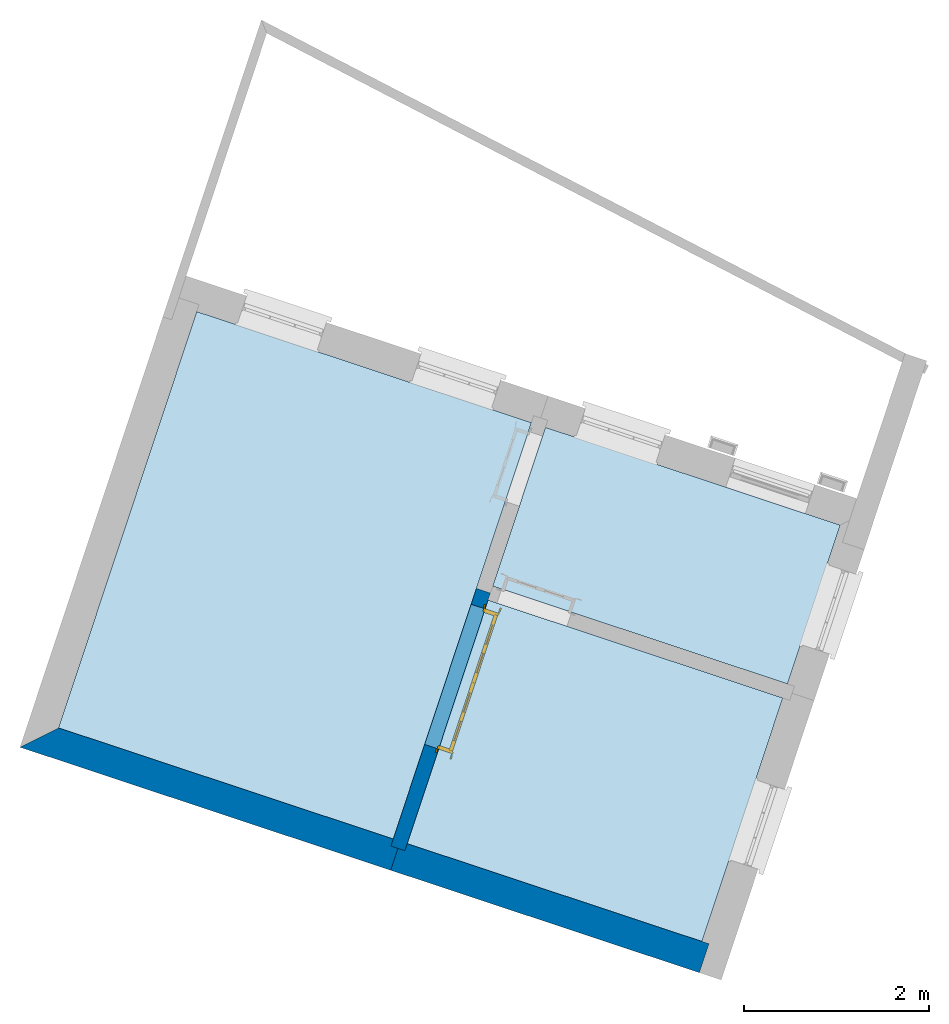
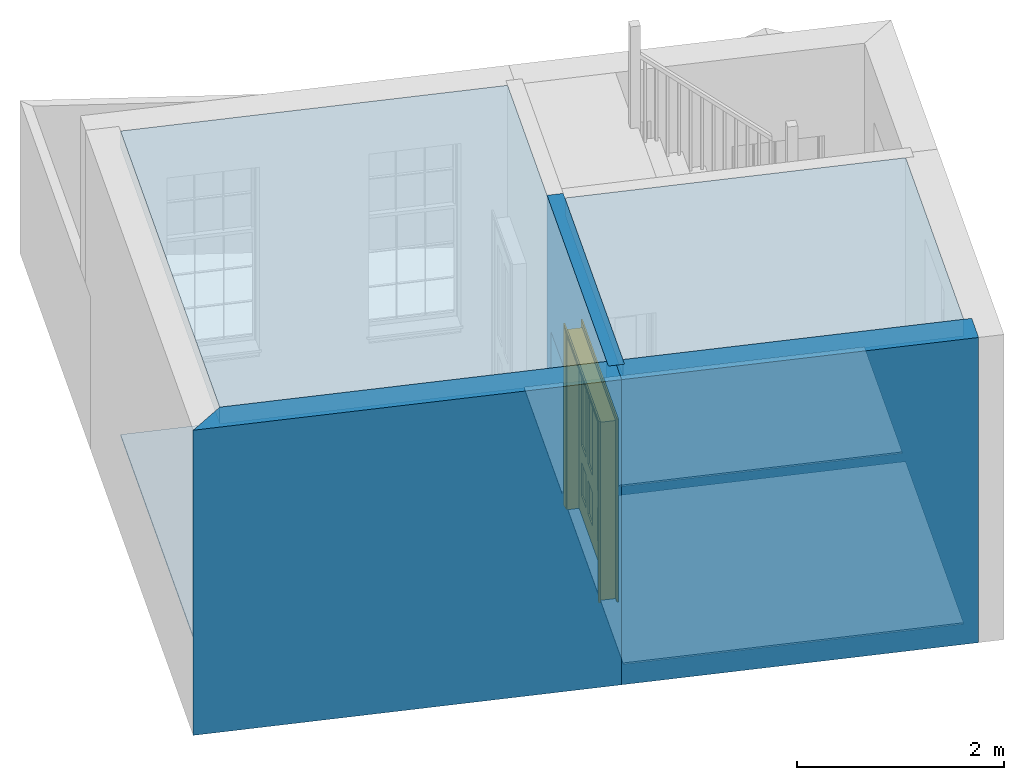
# One storey, part 1 of 6: 5 slabs, 3 walls, 1 door, 1 opening.
"""IFC4 building model written with IfcOpenShell, lengths in metres."""

from ifc_helpers import new_model, si_unit, frame, origin, origin_with_axes, place, context, subcontext, project, spatial, polyline, outline, extrude, faceted_brep, source, transform, mapped, material, layer, layer_set, layer_usage, type_object, type_shapes, element, fill, save


model = new_model("IFC4")

# Units and contexts
model_context = context("Model", 3, world=origin_with_axes())
body_context = subcontext(model_context, "Body", "Model", "MODEL_VIEW")
ifc_project = project(units=[si_unit("PLANEANGLEUNIT", "RADIAN"), si_unit("MASSUNIT", "GRAM", prefix="KILO"), si_unit("FORCEUNIT", "NEWTON", prefix="KILO"), si_unit("LENGTHUNIT", "METRE"), si_unit("AREAUNIT", "SQUARE_METRE"), si_unit("VOLUMEUNIT", "CUBIC_METRE")], contexts=[model_context, model_context])

# Sites, building, storey
site_1_placement = place(None, origin_with_axes())
site_1 = spatial("IfcSite", under=ifc_project, at=site_1_placement, Name="Tamar")
site_2_placement = place(site_1_placement, origin_with_axes())
site_2 = spatial("IfcSite", under=site_1, at=site_2_placement, Name="Site plot-17", CompositionType="ELEMENT")
building_placement = place(None, origin_with_axes())
building = spatial("IfcBuilding", under=site_2, at=building_placement, Name="Building plot-17", CompositionType="ELEMENT")
storey_placement = place(None, frame((0.0, 0.0, 26.8), z_axis=(0.0, 0.0, 1.0), x_axis=(1.0, 0.0, 0.0)))
storey = spatial("IfcBuildingStorey", under=building, at=storey_placement, Name="plot-17 0", CompositionType="ELEMENT", Elevation=26.8)

# Slabs
slab_1_placement = place(storey_placement, frame((267.388920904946, 307.511423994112, 3.4)))
element("IfcSlab", 1, at=slab_1_placement, inside=storey, Name="My Slab", ObjectType="Slab", PredefinedType="FLOOR", context=body_context, shape_type="SweptSolid", body=[
    extrude(outline(polyline([(0.0, 0.0), (-1.49607704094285, -4.50704970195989), (2.12764428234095, -5.7099133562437), (3.62372132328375, -1.20286365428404), (0.0, 0.0)])), origin_with_axes(), (0.0, 0.0, 1.0), 0.2),
])
slab_2_placement = place(storey_placement, frame((267.388920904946, 307.511423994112, 0.0)))
element("IfcSlab", 2, at=slab_2_placement, inside=storey, Name="My Slab", ObjectType="Slab", PredefinedType="FLOOR", context=body_context, shape_type="SweptSolid", body=[
    extrude(outline(polyline([(0.0, 0.0), (-1.49607704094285, -4.50704970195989), (2.12764428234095, -5.7099133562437), (3.62372132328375, -1.20286365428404), (0.0, 0.0)])), origin_with_axes(), (0.0, 0.0, 1.0), 0.02),
])
slab_3_placement = place(storey_placement, frame((271.164494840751, 306.258154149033, 0.0)))
element("IfcSlab", 3, at=slab_3_placement, inside=storey, Name="My Slab", ObjectType="Slab", PredefinedType="FLOOR", context=body_context, shape_type="SweptSolid", body=[
    extrude(outline(polyline([(0.0, 0.0), (-0.570522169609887, -1.7187428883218), (2.6201424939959, -2.77785704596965), (3.19066466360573, -1.05911415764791), (0.0, 0.0)])), origin_with_axes(), (0.0, 0.0, 1.0), 0.02),
])
slab_4_placement = place(storey_placement, frame((270.543566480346, 304.38755864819, 3.4)))
element("IfcSlab", 4, at=slab_4_placement, inside=storey, Name="My Slab", ObjectType="Slab", PredefinedType="FLOOR", context=body_context, shape_type="SweptSolid", body=[
    extrude(outline(polyline([(0.0, 0.0), (-0.875148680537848, -2.63645420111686), (2.31551598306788, -3.69556835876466), (3.19066466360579, -1.05911415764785), (0.0, 0.0)])), origin_with_axes(), (0.0, 0.0, 1.0), 0.2),
])
slab_5_placement = place(storey_placement, frame((270.543566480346, 304.38755864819, 0.0)))
element("IfcSlab", 5, at=slab_5_placement, inside=storey, Name="My Slab", ObjectType="Slab", PredefinedType="FLOOR", context=body_context, shape_type="SweptSolid", body=[
    extrude(outline(polyline([(0.0, 0.0), (-0.875148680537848, -2.63645420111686), (2.31551598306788, -3.69556835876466), (3.19066466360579, -1.05911415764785), (0.0, 0.0)])), origin_with_axes(), (0.0, 0.0, 1.0), 0.02),
])

# Walls
ifc_material_1 = material(Name="Masonry")
ifc_layer_1 = layer(ifc_material_1, 0.33, ventilated=False)
ifc_layer_set_1 = layer_set([ifc_layer_1], Name="party_0.08_0.25")
ifc_layer_usage_1 = layer_usage(ifc_layer_set_1, "AXIS2", "POSITIVE", -0.25)
wall_type_1 = type_object("IfcWallType", Name="party_0.08_0.25", PredefinedType="SOLIDWALL", material=ifc_layer_set_1)
wall_1_placement = place(storey_placement, frame((265.791714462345, 302.953651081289, 0.0), z_axis=(0.0, 0.0, 1.0), x_axis=(0.949078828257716, -0.315038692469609, 0.0)))
element("IfcWall", 6, at=wall_1_placement, inside=storey, type_object=wall_type_1, material=ifc_layer_usage_1, Name="party", context=body_context, shape_type="SweptSolid", body=[
    extrude(outline(polyline([(0.0800000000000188, 0.0799999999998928), (-0.249999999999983, -0.250000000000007), (3.97814578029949, -0.250000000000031), (3.97814578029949, 0.079999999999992), (0.0800000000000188, 0.0799999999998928)])), origin_with_axes(), (0.0, 0.0, 1.0), 3.6),
])
wall_2_placement = place(storey_placement, frame((269.56728839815, 301.70038123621, 0.0), z_axis=(0.0, 0.0, 1.0), x_axis=(0.949078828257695, -0.315038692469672, 0.0)))
element("IfcWall", 7, at=wall_2_placement, inside=storey, type_object=wall_type_1, material=ifc_layer_usage_1, Name="party", context=body_context, shape_type="SweptSolid", body=[
    extrude(outline(polyline([(-1.4170428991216e-14, 0.0799999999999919), (1.06122167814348e-14, -0.250000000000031), (3.52185421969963, -0.249999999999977), (3.52185421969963, 0.0799999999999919), (-1.4170428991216e-14, 0.0799999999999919)])), origin_with_axes(), (0.0, 0.0, 1.0), 3.6),
])

# Wall, opening, door
ifc_material_2 = material(Name="Masonry")
ifc_layer_2 = layer(ifc_material_2, 0.16, ventilated=False)
ifc_layer_set_2 = layer_set([ifc_layer_2], Name="interior_0.08_0.08")
ifc_layer_usage_2 = layer_usage(ifc_layer_set_2, "AXIS2", "POSITIVE", -0.08)
wall_type_2 = type_object("IfcWallType", Name="interior_0.08_0.08", PredefinedType="SOLIDWALL", material=ifc_layer_set_2)
wall_3_placement = place(storey_placement, frame((270.492843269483, 304.488688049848, 0.0), z_axis=(0.0, 0.0, 1.0), x_axis=(-0.3150386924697, -0.949078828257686, 0.0)))
wall_3 = element("IfcWall", 8, at=wall_3_placement, inside=storey, type_object=wall_type_2, material=ifc_layer_usage_2, Name="interior", context=body_context, shape_type="SweptSolid", body=[
    extrude(outline(polyline([(-1.66413957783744e-14, 0.0799999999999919), (1.65960714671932e-14, -0.0799999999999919), (2.93790855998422, -0.0799999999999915), (2.93790855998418, 0.0799999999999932), (-1.66413957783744e-14, 0.0799999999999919)])), origin_with_axes(), (0.0, 0.0, 1.0), 3.6),
])
opening_placement = place(wall_3_placement, frame((0.180000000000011, 0.0, 0.0199999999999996)))
opening = element("IfcOpeningElement", 9, at=opening_placement, cuts=wall_3, Name="My Opening", ObjectType="Opening", context=body_context, shape_type="SweptSolid", body=[
    extrude(outline(polyline([(0.0, -0.100000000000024), (1.59999999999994, -0.100000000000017), (1.59999999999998, 1.10000000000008), (3.83304499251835e-14, 1.10000000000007), (0.0, -0.100000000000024)])), origin_with_axes(), (0.0, 0.0, 1.0), 2.1),
])
door_type = type_object("IfcDoorType", Name="door_inside_double", OperationType="SINGLE_SWING_LEFT", PredefinedType="NOTDEFINED")
shared_shape = source(origin(), body_context, "Body", "Brep", [
    faceted_brep([(0.14, 0.307, 1.895), (0.14, 0.307, 0.82), (0.363, 0.307, 0.82), (0.363, 0.307, 1.895), (0.14, 0.292, 1.895), (0.14, 0.292, 0.82), (0.363, 0.292, 0.82), (0.363, 0.292, 1.895), (0.027, 0.292, 1.895), (0.027, 0.292, 0.82), (0.363, 0.292, 0.62), (0.14, 0.292, 0.62), (0.463, 0.292, 0.82), (0.463, 0.292, 1.895), (0.363, 0.292, 2.073), (0.14, 0.292, 2.073), (0.027, 0.292, 2.073), (0.027, 0.33, 1.895), (0.027, 0.33, 0.82), (0.027, 0.292, 0.62), (0.463, 0.292, 0.62), (0.14, 0.307, 0.62), (0.363, 0.307, 0.62), (0.463, 0.307, 0.82), (0.463, 0.307, 1.895), (0.463, 0.292, 2.073), (0.14, 0.33, 2.073), (0.363, 0.33, 2.073), (0.027, 0.33, 2.073), (0.14, 0.33, 1.895), (0.14, 0.33, 0.82), (0.027, 0.33, 0.62), (0.027, 0.292, 0.225), (0.14, 0.292, 0.225), (0.363, 0.292, 0.225), (0.463, 0.292, 0.225), (0.686, 0.292, 0.62), (0.686, 0.292, 0.82), (0.14, 0.307, 0.225), (0.363, 0.307, 0.225), (0.686, 0.307, 0.82), (0.686, 0.307, 1.895), (0.686, 0.292, 1.895), (0.686, 0.292, 2.073), (0.463, 0.33, 2.073), (0.363, 0.33, 1.895), (0.14, 0.315, 1.895), (0.14, 0.315, 0.82), (0.14, 0.33, 0.62), (0.027, 0.33, 0.225), (0.027, 0.292, 0.0), (0.14, 0.292, 0.0), (0.363, 0.292, 0.0), (0.463, 0.292, 0.0), (0.463, 0.307, 0.225), (0.463, 0.307, 0.62), (0.686, 0.307, 0.62), (0.799, 0.292, 0.62), (0.799, 0.292, 0.82), (0.799, 0.292, 1.895), (0.799, 0.292, 2.073), (0.686, 0.33, 2.073), (0.463, 0.33, 1.895), (0.363, 0.315, 1.895), (0.363, 0.315, 0.82), (0.363, 0.33, 0.82), (0.363, 0.33, 0.62), (0.14, 0.33, 0.225), (0.027, 0.33, 0.0), (0.14, 0.33, 0.0), (0.363, 0.33, 0.0), (0.463, 0.33, 0.0), (0.686, 0.292, 0.0), (0.686, 0.292, 0.225), (0.686, 0.307, 0.225), (0.799, 0.292, 0.225), (0.799, 0.33, 0.62), (0.799, 0.33, 0.82), (0.799, 0.33, 1.895), (0.799, 0.33, 2.073), (0.686, 0.33, 1.895), (0.463, 0.33, 0.82), (0.463, 0.33, 0.62), (0.363, 0.315, 0.62), (0.14, 0.315, 0.62), (0.14, 0.315, 0.225), (0.363, 0.33, 0.225), (0.463, 0.33, 0.225), (0.686, 0.33, 0.0), (0.799, 0.292, 0.0), (0.799, 0.33, 0.225), (0.686, 0.33, 0.62), (0.686, 0.33, 0.82), (0.686, 0.315, 1.895), (0.463, 0.315, 1.895), (0.463, 0.315, 0.82), (0.363, 0.315, 0.225), (0.686, 0.33, 0.225), (0.799, 0.33, 0.0), (0.686, 0.315, 0.82), (0.463, 0.315, 0.62), (0.463, 0.315, 0.225), (0.686, 0.315, 0.62), (0.686, 0.315, 0.225), (1.46, 0.33, 1.895), (1.237, 0.33, 1.895), (1.237, 0.33, 2.073), (1.46, 0.33, 2.073), (1.46, 0.315, 1.895), (1.237, 0.315, 1.895), (1.137, 0.33, 1.895), (1.137, 0.33, 2.073), (1.237, 0.292, 2.073), (1.46, 0.292, 2.073), (1.573, 0.33, 1.895), (1.573, 0.33, 2.073), (1.46, 0.33, 0.82), (1.46, 0.315, 0.82), (1.237, 0.315, 0.82), (1.237, 0.33, 0.82), (1.137, 0.33, 0.82), (0.914, 0.33, 2.073), (0.914, 0.33, 1.895), (1.137, 0.292, 2.073), (1.237, 0.292, 1.895), (1.46, 0.292, 1.895), (1.573, 0.292, 2.073), (1.573, 0.33, 0.82), (1.573, 0.292, 1.895), (1.237, 0.33, 0.62), (1.137, 0.33, 0.62), (1.137, 0.315, 0.82), (1.137, 0.315, 1.895), (0.914, 0.292, 2.073), (0.914, 0.315, 1.895), (0.801, 0.33, 2.073), (0.801, 0.33, 1.895), (1.137, 0.292, 1.895), (1.237, 0.307, 1.895), (1.46, 0.307, 1.895), (1.573, 0.292, 0.82), (1.573, 0.33, 0.62), (1.46, 0.33, 0.62), (1.237, 0.33, 0.225), (1.137, 0.33, 0.225), (0.914, 0.33, 0.82), (0.914, 0.33, 0.62), (0.914, 0.315, 0.82), (0.801, 0.292, 2.073), (0.914, 0.292, 1.895), (0.801, 0.33, 0.82), (0.801, 0.292, 1.895), (1.137, 0.292, 0.82), (1.237, 0.292, 0.82), (1.237, 0.307, 0.82), (1.46, 0.307, 0.82), (1.46, 0.292, 0.82), (1.573, 0.292, 0.62), (1.573, 0.33, 0.225), (1.46, 0.33, 0.225), (1.46, 0.315, 0.62), (1.237, 0.315, 0.62), (1.237, 0.33, 0.0), (1.137, 0.33, 0.0), (1.137, 0.315, 0.225), (1.137, 0.315, 0.62), (1.237, 0.315, 0.225), (0.914, 0.315, 0.62), (0.801, 0.33, 0.62), (0.914, 0.307, 1.895), (1.137, 0.307, 1.895), (0.801, 0.292, 0.82), (1.137, 0.292, 0.62), (1.237, 0.292, 0.62), (1.137, 0.307, 0.82), (1.46, 0.292, 0.62), (1.573, 0.292, 0.225), (1.573, 0.33, 0.0), (1.46, 0.33, 0.0), (1.46, 0.315, 0.225), (1.237, 0.292, 0.0), (1.137, 0.292, 0.0), (0.914, 0.33, 0.225), (0.914, 0.33, 0.0), (0.914, 0.315, 0.225), (0.801, 0.33, 0.225), (0.801, 0.292, 0.62), (0.914, 0.292, 0.82), (0.914, 0.307, 0.82), (1.137, 0.292, 0.225), (1.237, 0.292, 0.225), (0.914, 0.292, 0.62), (1.46, 0.292, 0.225), (1.573, 0.292, 0.0), (1.46, 0.292, 0.0), (0.914, 0.292, 0.0), (0.801, 0.33, 0.0), (0.801, 0.292, 0.225), (1.237, 0.307, 0.225), (1.237, 0.307, 0.62), (1.137, 0.307, 0.62), (1.137, 0.307, 0.225), (1.46, 0.307, 0.62), (0.914, 0.307, 0.62), (1.46, 0.307, 0.225), (0.914, 0.292, 0.225), (0.801, 0.292, 0.0), (0.914, 0.307, 0.225), (0.02, 0.335, 0.0), (0.005, 0.34, 0.0), (0.005, 0.34, 2.095), (0.02, 0.335, 2.08), (0.02, 0.33, 0.0), (0.0, 0.335, 0.0), (0.0, 0.335, 2.1), (1.595, 0.34, 2.095), (1.58, 0.335, 2.08), (0.02, 0.33, 2.08), (0.0, 0.33, 0.0), (-0.032, 0.345, 0.0), (-0.032, 0.345, 2.132), (1.6, 0.335, 2.1), (1.595, 0.34, 0.0), (1.58, 0.335, 0.0), (1.58, 0.33, 2.08), (0.025, 0.33, 0.0), (0.025, 0.33, 2.075), (-0.04, 0.34, 0.0), (0.025, 0.29, 0.0), (0.0, 0.17, 0.0), (-0.04, 0.34, 2.14), (1.632, 0.345, 2.132), (1.6, 0.335, 0.0), (1.58, 0.33, 0.0), (1.575, 0.33, 2.075), (0.025, 0.29, 2.075), (-0.06, 0.33, 0.0), (0.035, 0.17, 0.0), (0.0, 0.17, 2.1), (0.0, 0.33, 2.1), (-0.04, 0.345, 0.0), (-0.04, 0.345, 2.14), (1.64, 0.34, 2.14), (1.632, 0.345, 0.0), (1.6, 0.33, 0.0), (1.575, 0.33, 0.0), (1.575, 0.29, 2.075), (0.04, 0.29, 0.0), (0.04, 0.29, 2.06), (-0.06, 0.345, 0.0), (-0.06, 0.33, 2.16), (0.015, 0.165, 0.0), (0.04, 0.17, 0.0), (-0.045, 0.17, 2.145), (-0.045, 0.17, 0.0), (1.6, 0.17, 2.1), (1.6, 0.33, 2.1), (-0.06, 0.345, 2.16), (1.64, 0.345, 2.14), (1.64, 0.34, 0.0), (1.6, 0.17, 0.0), (1.575, 0.29, 0.0), (1.56, 0.29, 2.06), (0.04, 0.17, 2.06), (1.66, 0.33, 2.16), (-0.017, 0.155, 0.0), (-0.025, 0.16, 0.0), (0.02, 0.16, 0.0), (0.035, 0.165, 0.0), (0.035, 0.17, 2.065), (1.645, 0.17, 2.145), (-0.045, 0.155, 2.145), (-0.045, 0.155, 0.0), (1.66, 0.345, 2.16), (1.64, 0.345, 0.0), (1.66, 0.33, 0.0), (1.565, 0.17, 0.0), (1.56, 0.29, 0.0), (1.56, 0.17, 2.06), (-0.017, 0.155, 2.117), (-0.025, 0.16, 2.125), (0.015, 0.165, 2.085), (0.02, 0.16, 2.08), (0.035, 0.165, 2.065), (1.565, 0.17, 2.065), (1.645, 0.17, 0.0), (1.645, 0.155, 2.145), (-0.025, 0.155, 0.0), (1.66, 0.345, 0.0), (1.585, 0.165, 0.0), (1.56, 0.17, 0.0), (1.617, 0.155, 2.117), (1.625, 0.16, 2.125), (-0.025, 0.155, 2.125), (1.585, 0.165, 2.085), (1.58, 0.16, 2.08), (1.565, 0.165, 2.065), (1.625, 0.16, 0.0), (1.645, 0.155, 0.0), (1.625, 0.155, 2.125), (1.617, 0.155, 0.0), (1.565, 0.165, 0.0), (1.58, 0.16, 0.0), (1.625, 0.155, 0.0)], [[[0, 1, 2, 3]], [[1, 0, 4, 5]], [[2, 1, 5, 6]], [[6, 7, 3, 2]], [[7, 4, 0, 3]], [[4, 8, 9, 5]], [[10, 6, 5, 11]], [[6, 12, 13, 7]], [[14, 15, 4, 7]], [[15, 16, 8, 4]], [[9, 8, 17, 18]], [[5, 9, 19, 11]], [[10, 20, 12, 6]], [[10, 11, 21, 22]], [[13, 12, 23, 24]], [[7, 13, 25, 14]], [[26, 15, 14, 27]], [[28, 16, 15, 26]], [[8, 16, 28, 17]], [[17, 29, 30, 18]], [[18, 31, 19, 9]], [[11, 19, 32, 33]], [[34, 35, 20, 10]], [[20, 36, 37, 12]], [[11, 33, 38, 21]], [[39, 22, 21, 38]], [[34, 10, 22, 39]], [[12, 37, 40, 23]], [[24, 23, 40, 41]], [[42, 13, 24, 41]], [[13, 42, 43, 25]], [[14, 25, 44, 27]], [[26, 27, 45, 29]], [[28, 26, 29, 17]], [[30, 29, 46, 47]], [[18, 30, 48, 31]], [[31, 49, 32, 19]], [[33, 32, 50, 51]], [[52, 53, 35, 34]], [[20, 35, 54, 55]], [[36, 20, 55, 56]], [[36, 57, 58, 37]], [[33, 34, 39, 38]], [[37, 42, 41, 40]], [[42, 59, 60, 43]], [[44, 25, 43, 61]], [[62, 45, 27, 44]], [[29, 45, 63, 46]], [[46, 63, 64, 47]], [[65, 30, 47, 64]], [[30, 65, 66, 48]], [[31, 48, 67, 49]], [[68, 50, 32, 49]], [[68, 69, 51, 50]], [[34, 33, 51, 52]], [[53, 52, 70, 71]], [[53, 72, 73, 35]], [[35, 73, 74, 54]], [[55, 54, 74, 56]], [[73, 36, 56, 74]], [[73, 75, 57, 36]], [[57, 76, 77, 58]], [[37, 58, 59, 42]], [[78, 79, 60, 59]], [[60, 79, 61, 43]], [[80, 62, 44, 61]], [[81, 65, 45, 62]], [[45, 65, 64, 63]], [[82, 66, 65, 81]], [[48, 66, 83, 84]], [[67, 48, 84, 85]], [[49, 67, 69, 68]], [[52, 51, 69, 70]], [[71, 70, 86, 87]], [[72, 53, 71, 88]], [[72, 89, 75, 73]], [[75, 90, 76, 57]], [[76, 91, 92, 77]], [[78, 59, 58, 77]], [[78, 80, 61, 79]], [[62, 80, 93, 94]], [[81, 62, 94, 95]], [[87, 86, 66, 82]], [[91, 82, 81, 92]], [[66, 86, 96, 83]], [[84, 83, 96, 85]], [[86, 67, 85, 96]], [[67, 86, 70, 69]], [[88, 71, 87, 97]], [[89, 72, 88, 98]], [[89, 98, 90, 75]], [[90, 97, 91, 76]], [[80, 78, 77, 92]], [[80, 92, 99, 93]], [[99, 95, 94, 93]], [[92, 81, 95, 99]], [[87, 82, 100, 101]], [[82, 91, 102, 100]], [[97, 87, 101, 103]], [[98, 88, 97, 90]], [[91, 97, 103, 102]], [[103, 101, 100, 102]], [[104, 105, 106, 107]], [[105, 104, 108, 109]], [[105, 110, 111, 106]], [[106, 112, 113, 107]], [[114, 104, 107, 115]], [[104, 116, 117, 108]], [[117, 118, 109, 108]], [[119, 105, 109, 118]], [[119, 120, 110, 105]], [[121, 111, 110, 122]], [[123, 112, 106, 111]], [[124, 125, 113, 112]], [[126, 115, 107, 113]], [[104, 114, 127, 116]], [[114, 115, 126, 128]], [[116, 119, 118, 117]], [[129, 130, 120, 119]], [[110, 120, 131, 132]], [[121, 133, 123, 111]], [[122, 110, 132, 134]], [[135, 121, 122, 136]], [[137, 124, 112, 123]], [[125, 124, 138, 139]], [[125, 128, 126, 113]], [[114, 128, 140, 127]], [[141, 142, 116, 127]], [[142, 129, 119, 116]], [[143, 144, 130, 129]], [[145, 120, 130, 146]], [[120, 145, 147, 131]], [[134, 132, 131, 147]], [[135, 148, 133, 121]], [[123, 133, 149, 137]], [[145, 122, 134, 147]], [[136, 122, 145, 150]], [[151, 148, 135, 136]], [[152, 153, 124, 137]], [[124, 153, 154, 138]], [[138, 154, 155, 139]], [[156, 125, 139, 155]], [[156, 140, 128, 125]], [[157, 141, 127, 140]], [[158, 159, 142, 141]], [[129, 142, 160, 161]], [[162, 163, 144, 143]], [[130, 144, 164, 165]], [[143, 129, 161, 166]], [[146, 130, 165, 167]], [[150, 145, 146, 168]], [[133, 148, 151, 149]], [[137, 149, 169, 170]], [[171, 151, 136, 150]], [[172, 173, 153, 152]], [[152, 137, 170, 174]], [[153, 156, 155, 154]], [[175, 157, 140, 156]], [[176, 158, 141, 157]], [[177, 178, 159, 158]], [[142, 159, 179, 160]], [[179, 166, 161, 160]], [[180, 181, 163, 162]], [[182, 144, 163, 183]], [[178, 162, 143, 159]], [[144, 182, 184, 164]], [[167, 165, 164, 184]], [[159, 143, 166, 179]], [[182, 146, 167, 184]], [[168, 146, 182, 185]], [[150, 168, 186, 171]], [[149, 151, 171, 187]], [[149, 187, 188, 169]], [[169, 188, 174, 170]], [[189, 190, 173, 172]], [[173, 175, 156, 153]], [[172, 152, 187, 191]], [[187, 152, 174, 188]], [[192, 176, 157, 175]], [[193, 177, 158, 176]], [[193, 194, 178, 177]], [[181, 180, 190, 189]], [[181, 195, 183, 163]], [[194, 180, 162, 178]], [[185, 182, 183, 196]], [[168, 185, 197, 186]], [[187, 171, 186, 191]], [[173, 190, 198, 199]], [[189, 172, 200, 201]], [[175, 173, 199, 202]], [[172, 191, 203, 200]], [[194, 193, 176, 192]], [[192, 175, 202, 204]], [[180, 194, 192, 190]], [[189, 205, 195, 181]], [[196, 183, 195, 206]], [[196, 206, 197, 185]], [[191, 186, 197, 205]], [[190, 192, 204, 198]], [[199, 198, 204, 202]], [[201, 200, 203, 207]], [[205, 189, 201, 207]], [[191, 205, 207, 203]], [[205, 197, 206, 195]], [[208, 209, 210, 211]], [[208, 212, 213, 209]], [[209, 213, 214, 210]], [[211, 210, 215, 216]], [[211, 217, 212, 208]], [[218, 213, 212]], [[213, 219, 220, 214]], [[210, 214, 221, 215]], [[216, 215, 222, 223]], [[217, 211, 216, 224]], [[225, 212, 217, 226]], [[219, 213, 218, 227]], [[218, 212, 228, 229]], [[219, 227, 230, 220]], [[214, 220, 231, 221]], [[215, 221, 232, 222]], [[222, 232, 233, 223]], [[224, 216, 223, 233]], [[226, 217, 224, 234]], [[225, 228, 212]], [[235, 228, 225, 226]], [[236, 227, 218]], [[237, 229, 228]], [[229, 238, 239, 218]], [[227, 240, 241, 230]], [[220, 230, 242, 231]], [[221, 231, 243, 232]], [[244, 233, 232]], [[234, 224, 233, 245]], [[246, 235, 226, 234]], [[247, 228, 235, 248]], [[240, 227, 236, 249]], [[239, 250, 236, 218]], [[251, 229, 237]], [[252, 237, 228, 247]], [[253, 238, 229, 254]], [[238, 255, 256, 239]], [[241, 240, 257]], [[230, 241, 258, 242]], [[231, 242, 259, 243]], [[259, 244, 232, 243]], [[260, 261, 233, 244]], [[245, 233, 261]], [[261, 246, 234, 245]], [[248, 235, 246, 262]], [[248, 263, 252, 247]], [[250, 257, 249, 236]], [[240, 249, 257]], [[256, 264, 250, 239]], [[265, 266, 229, 251]], [[267, 251, 237, 268]], [[263, 269, 237, 252]], [[270, 255, 238, 253]], [[229, 266, 254]], [[271, 253, 254, 272]], [[256, 255, 260, 244]], [[273, 241, 257]], [[273, 258, 241]], [[242, 258, 274, 259]], [[275, 244, 259]], [[260, 276, 261]], [[261, 277, 262, 246]], [[262, 278, 263, 248]], [[264, 273, 257, 250]], [[244, 275, 264, 256]], [[266, 265, 279, 280]], [[265, 251, 281, 279]], [[251, 267, 282, 281]], [[269, 283, 268, 237]], [[267, 268, 283, 282]], [[278, 284, 269, 263]], [[285, 260, 255, 270]], [[286, 270, 253, 271]], [[272, 254, 266, 287]], [[271, 272, 287]], [[273, 274, 258]], [[288, 275, 259, 274]], [[276, 260, 289]], [[277, 261, 276, 290]], [[278, 262, 277, 290]], [[275, 288, 273, 264]], [[280, 279, 291, 292]], [[287, 266, 280, 293]], [[279, 281, 294, 291]], [[281, 282, 295, 294]], [[284, 296, 283, 269]], [[282, 283, 296, 295]], [[290, 276, 284, 278]], [[285, 297, 260]], [[298, 285, 270, 286]], [[299, 286, 271]], [[271, 287, 293]], [[273, 288, 274]], [[300, 289, 260, 297]], [[301, 276, 289, 302]], [[292, 291, 300, 297]], [[293, 280, 292, 299]], [[291, 294, 289, 300]], [[294, 295, 302, 289]], [[296, 284, 276, 301]], [[295, 296, 301, 302]], [[303, 297, 285, 298]], [[299, 298, 286]], [[271, 293, 299]], [[299, 292, 297, 303]], [[299, 303, 298]]]),
])
type_shapes(door_type, [shared_shape])
door_placement = place(storey_placement, frame((270.341228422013, 304.349357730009, 0.0199999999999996), z_axis=(0.0, 0.0, 1.0), x_axis=(-0.504061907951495, -1.51852612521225, 0.0)))
door = element("IfcDoor", 10, at=door_placement, inside=storey, type_object=door_type, Name="kitchen living inside door", OverallHeight=2.1, OverallWidth=1.6, context=body_context, shape_type="MappedRepresentation", body=[
    mapped(shared_shape, transform((0.0, 0.0, 0.0), scale=1.0)),
])
fill(opening, door)

save(model, "model.ifc")
